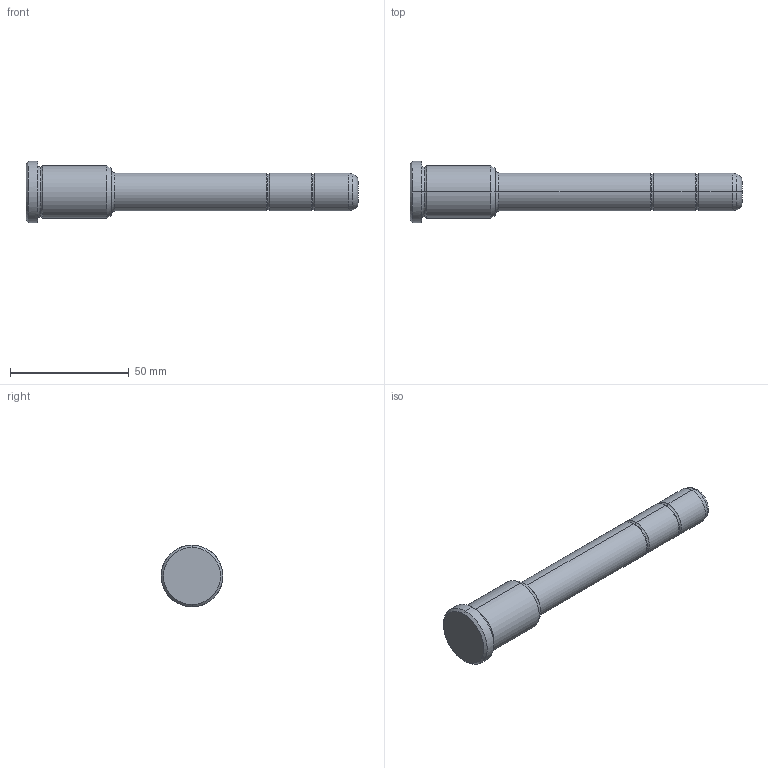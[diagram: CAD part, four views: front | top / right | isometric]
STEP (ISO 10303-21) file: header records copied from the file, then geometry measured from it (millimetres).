
FILE_DESCRIPTION(('CATIA V5 STEP Exchange'),'2;1');
FILE_NAME('C:\Users\Utente\Desktop\IO LAVORO\3D X SITO CF\X SITO\PLASTICA\351\351-16X36X140.stp','2021-08-18T11:26:33+00:00',('none'),('none'),'CATIA Version 5 Release 20 GA (IN-10)','CATIA V5 STEP AP203','none');
FILE_SCHEMA(('CONFIG_CONTROL_DESIGN'));
Length unit declared in the file: millimetre
Products named in the file (1): 351-16X36X140
Bounding box: 140 x 26 x 26 mm (x, y, z)
Volume: 35009.8 mm3; surface area: 8661.8 mm2
Topology: 1 solids, 1 shells, 36 faces, 102 edges, 70 vertices
Faces by surface type: torus 16, cylinder 10, cone 6, plane 4
Entity records: 1292 total; most frequent: CARTESIAN_POINT 321, ORIENTED_EDGE 204, DIRECTION 166, AXIS2_PLACEMENT_3D 115, EDGE_CURVE 102, CIRCLE 78, VERTEX_POINT 70, EDGE_LOOP 38
